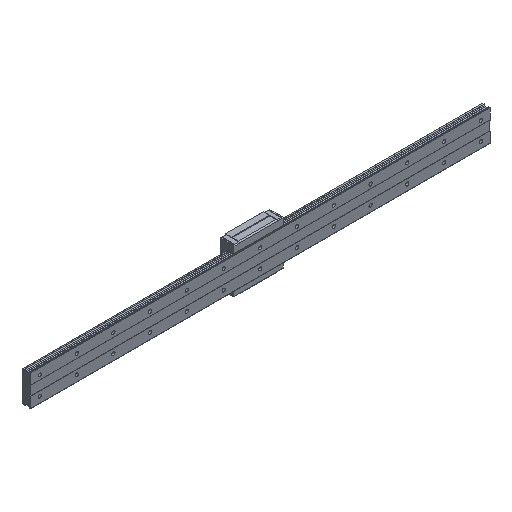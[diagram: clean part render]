
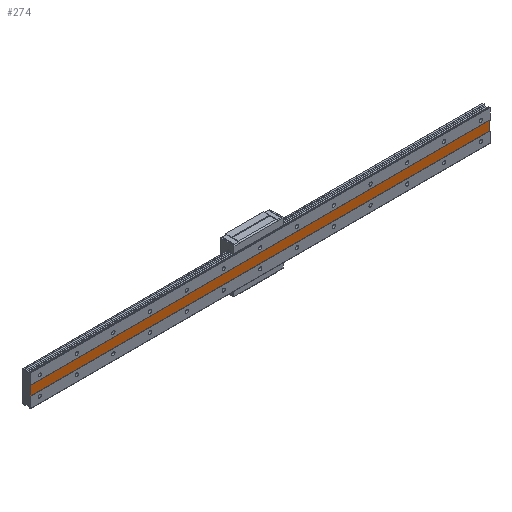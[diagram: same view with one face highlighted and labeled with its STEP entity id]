
A CAD part, isometric view. The second image highlights one B-rep face of the part: STEP entity #274.
In plain terms, the highlighted planar face has unit normal (0, -1, 0).
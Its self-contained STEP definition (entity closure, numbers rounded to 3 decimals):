
#274 = ADVANCED_FACE( '', ( #795 ), #796, .T. );
#795 = FACE_OUTER_BOUND( '', #1489, .T. );
#796 = PLANE( '', #1490 );
#1489 = EDGE_LOOP( '', ( #2951, #2952, #2953, #2954 ) );
#1490 = AXIS2_PLACEMENT_3D( '', #2955, #2956, #2957 );
#2951 = ORIENTED_EDGE( '', *, *, #4612, .T. );
#2952 = ORIENTED_EDGE( '', *, *, #4613, .F. );
#2953 = ORIENTED_EDGE( '', *, *, #4614, .T. );
#2954 = ORIENTED_EDGE( '', *, *, #4610, .T. );
#2955 = CARTESIAN_POINT( '', ( -20., 0.5, -10. ) );
#2956 = DIRECTION( '', ( 0., -1., 0. ) );
#2957 = DIRECTION( '', ( 0., 0., -1. ) );
#4610 = EDGE_CURVE( '', #5615, #5613, #5616, .T. );
#4612 = EDGE_CURVE( '', #5613, #5618, #5619, .T. );
#4613 = EDGE_CURVE( '', #5620, #5618, #5621, .T. );
#4614 = EDGE_CURVE( '', #5620, #5615, #5622, .T. );
#5613 = VERTEX_POINT( '', #7002 );
#5615 = VERTEX_POINT( '', #7004 );
#5616 = LINE( '', #7005, #7006 );
#5618 = VERTEX_POINT( '', #7008 );
#5619 = LINE( '', #7009, #7010 );
#5620 = VERTEX_POINT( '', #7011 );
#5621 = LINE( '', #7012, #7013 );
#5622 = LINE( '', #7014, #7015 );
#7002 = CARTESIAN_POINT( '', ( 980., 0.5, -10. ) );
#7004 = CARTESIAN_POINT( '', ( -20., 0.5, -10. ) );
#7005 = CARTESIAN_POINT( '', ( -20., 0.5, -10. ) );
#7006 = VECTOR( '', #8728, 1. );
#7008 = CARTESIAN_POINT( '', ( 980., 0.5, 10. ) );
#7009 = CARTESIAN_POINT( '', ( 980., 0.5, 10. ) );
#7010 = VECTOR( '', #8732, 1. );
#7011 = CARTESIAN_POINT( '', ( -20., 0.5, 10. ) );
#7012 = CARTESIAN_POINT( '', ( -20., 0.5, 10. ) );
#7013 = VECTOR( '', #8733, 1. );
#7014 = CARTESIAN_POINT( '', ( -20., 0.5, 10. ) );
#7015 = VECTOR( '', #8734, 1. );
#8728 = DIRECTION( '', ( 1., 0., 0. ) );
#8732 = DIRECTION( '', ( 0., 0., 1. ) );
#8733 = DIRECTION( '', ( 1., 0., 0. ) );
#8734 = DIRECTION( '', ( 0., 0., -1. ) );
